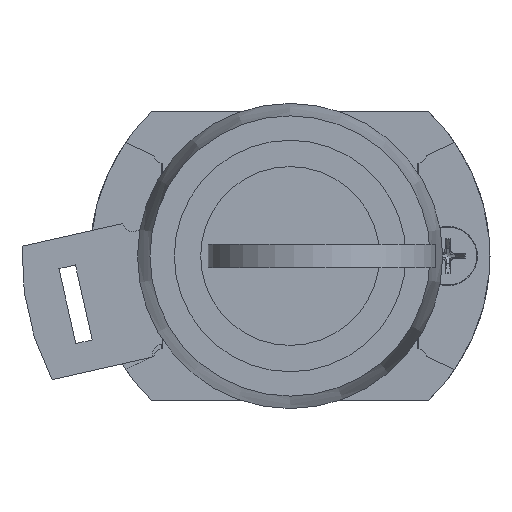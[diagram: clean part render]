
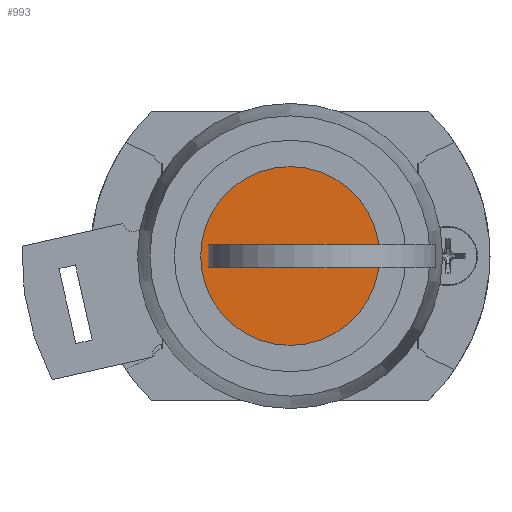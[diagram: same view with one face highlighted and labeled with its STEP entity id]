
A CAD part, left-side view. The second image highlights one B-rep face of the part: STEP entity #993.
In plain terms, the highlighted planar face has unit normal (-1, 0, 0).
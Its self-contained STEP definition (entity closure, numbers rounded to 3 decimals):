
#558 = VERTEX_POINT ( 'NONE', #5855 ) ;
#559 = VERTEX_POINT ( 'NONE', #5856 ) ;
#560 = VERTEX_POINT ( 'NONE', #5857 ) ;
#561 = VERTEX_POINT ( 'NONE', #5858 ) ;
#707 = EDGE_CURVE ( 'NONE', #561, #558, #5122, .T. ) ;
#708 = EDGE_CURVE ( 'NONE', #558, #559, #5126, .T. ) ;
#709 = EDGE_CURVE ( 'NONE', #559, #560, #5129, .T. ) ;
#711 = EDGE_CURVE ( 'NONE', #560, #561, #5133, .T. ) ;
#738 = EDGE_CURVE ( 'NONE', #12651, #12651, #5168, .T. ) ;
#993 = ADVANCED_FACE ( 'NONE', ( #6809, #6808 ), #6725, .T. ) ;
#3435 = AXIS2_PLACEMENT_3D ( 'NONE', #6104, #6109, #6110 ) ;
#3537 = AXIS2_PLACEMENT_3D ( 'NONE', #6717, #6726, #6727 ) ;
#5122 = LINE ( 'NONE', #6025, #5124 ) ;
#5124 = VECTOR ( 'NONE', #6026, 1000. ) ;
#5126 = LINE ( 'NONE', #6019, #5128 ) ;
#5128 = VECTOR ( 'NONE', #6028, 1000. ) ;
#5129 = LINE ( 'NONE', #6029, #5130 ) ;
#5130 = VECTOR ( 'NONE', #6030, 1000. ) ;
#5133 = LINE ( 'NONE', #6033, #5134 ) ;
#5134 = VECTOR ( 'NONE', #6034, 1000. ) ;
#5168 = CIRCLE ( 'NONE', #3435, 8.5 ) ;
#5855 = CARTESIAN_POINT ( 'NONE',  ( -15., -7., -1.1 ) ) ;
#5856 = CARTESIAN_POINT ( 'NONE',  ( -15., 2., -1.1 ) ) ;
#5857 = CARTESIAN_POINT ( 'NONE',  ( -15., 2., 1.1 ) ) ;
#5858 = CARTESIAN_POINT ( 'NONE',  ( -15., -7., 1.1 ) ) ;
#6019 = CARTESIAN_POINT ( 'NONE',  ( -15., 4.25, -1.1 ) ) ;
#6025 = CARTESIAN_POINT ( 'NONE',  ( -15., -7., 0. ) ) ;
#6026 = DIRECTION ( 'NONE',  ( 0., 0., -1. ) ) ;
#6028 = DIRECTION ( 'NONE',  ( 0., 1., 0. ) ) ;
#6029 = CARTESIAN_POINT ( 'NONE',  ( -15., 2., 0. ) ) ;
#6030 = DIRECTION ( 'NONE',  ( 0., 0., 1. ) ) ;
#6033 = CARTESIAN_POINT ( 'NONE',  ( -15., 4.25, 1.1 ) ) ;
#6034 = DIRECTION ( 'NONE',  ( 0., -1., 0. ) ) ;
#6104 = CARTESIAN_POINT ( 'NONE',  ( -15., 0., 0. ) ) ;
#6109 = DIRECTION ( 'NONE',  ( 1., 0., 0. ) ) ;
#6110 = DIRECTION ( 'NONE',  ( 0., 0., -1. ) ) ;
#6717 = CARTESIAN_POINT ( 'NONE',  ( -15., 4.25, 0. ) ) ;
#6725 = PLANE ( 'NONE',  #3537 ) ;
#6726 = DIRECTION ( 'NONE',  ( -1., 0., 0. ) ) ;
#6727 = DIRECTION ( 'NONE',  ( 0., 0., 1. ) ) ;
#6808 = FACE_OUTER_BOUND ( 'NONE', #12924, .T. ) ;
#6809 = FACE_BOUND ( 'NONE', #12918, .T. ) ;
#12651 = VERTEX_POINT ( 'NONE', #12652 ) ;
#12652 = CARTESIAN_POINT ( 'NONE',  ( -15., 0., -8.5 ) ) ;
#12894 = ORIENTED_EDGE ( 'NONE', *, *, #709, .T. ) ;
#12895 = ORIENTED_EDGE ( 'NONE', *, *, #708, .T. ) ;
#12903 = ORIENTED_EDGE ( 'NONE', *, *, #738, .F. ) ;
#12909 = ORIENTED_EDGE ( 'NONE', *, *, #707, .T. ) ;
#12910 = ORIENTED_EDGE ( 'NONE', *, *, #711, .T. ) ;
#12918 = EDGE_LOOP ( 'NONE', ( #12910, #12909, #12895, #12894 ) ) ;
#12924 = EDGE_LOOP ( 'NONE', ( #12903 ) ) ;
